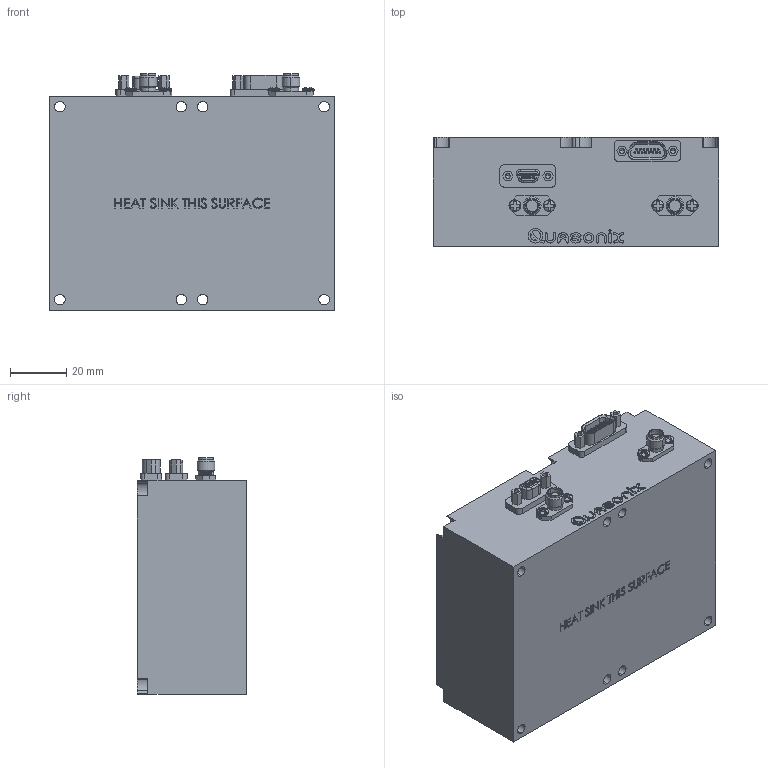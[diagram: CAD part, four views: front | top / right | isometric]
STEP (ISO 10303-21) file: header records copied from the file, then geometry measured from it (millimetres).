
FILE_DESCRIPTION (( 'STEP AP214' ), '1' );
FILE_NAME ('18AG.STEP', '2019-05-22T12:28:45', ( '' ), ( '' ), 'SwSTEP 2.0', 'SolidWorks 2018', '' );
FILE_SCHEMA (( 'AUTOMOTIVE_DESIGN' ));
Length unit declared in the file: inch
Products named in the file (1): 18AG
Bounding box: 101.6 x 38.98 x 84.14 mm (x, y, z)
Volume: 299056.9 mm3; surface area: 35933.8 mm2
Topology: 13 solids, 13 shells, 945 faces, 2404 edges, 1582 vertices
Faces by surface type: plane 464, cylinder 276, bspline 151, cone 25, torus 21, sphere 8
Entity records: 42918 total; most frequent: CARTESIAN_POINT 11799, ORIENTED_EDGE 4808, DIRECTION 4283, EDGE_CURVE 2404, VERTEX_POINT 1582, AXIS2_PLACEMENT_3D 1446, VECTOR 1391, LINE 1391
